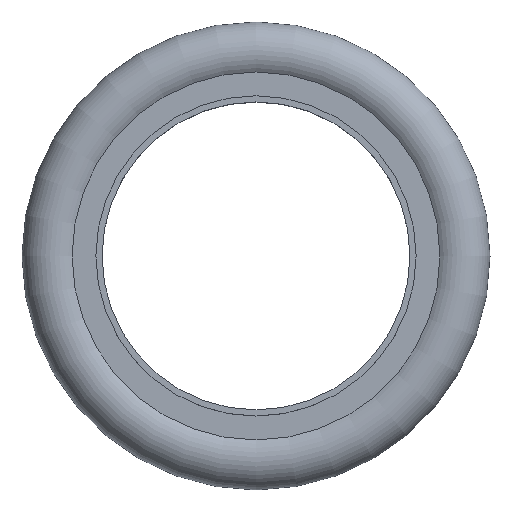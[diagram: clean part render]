
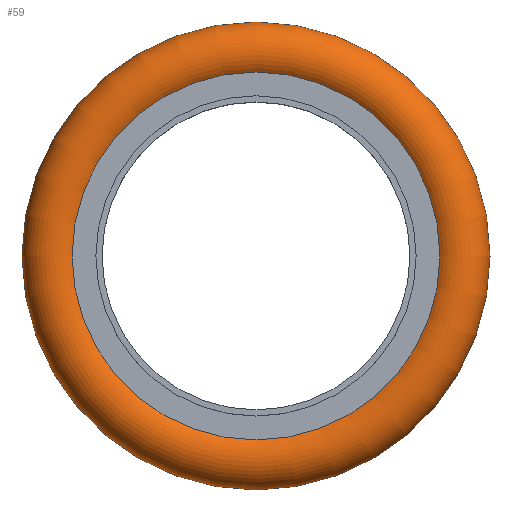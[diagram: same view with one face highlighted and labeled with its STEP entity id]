
A CAD part, top view. The second image highlights one B-rep face of the part: STEP entity #59.
In plain terms, the highlighted toroidal (fillet/blend) face has major radius 16.5 mm and minor radius 2.5 mm.
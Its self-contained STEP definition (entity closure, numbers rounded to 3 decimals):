
#59 = ADVANCED_FACE( '', ( #110, #111 ), #112, .T. );
#110 = FACE_OUTER_BOUND( '', #156, .T. );
#111 = FACE_OUTER_BOUND( '', #157, .T. );
#112 = TOROIDAL_SURFACE( '', #158, 16.5, 2.5 );
#156 = EDGE_LOOP( '', ( #194 ) );
#157 = EDGE_LOOP( '', ( #195 ) );
#158 = AXIS2_PLACEMENT_3D( '', #196, #197, #198 );
#194 = ORIENTED_EDGE( '', *, *, #237, .F. );
#195 = ORIENTED_EDGE( '', *, *, #231, .T. );
#196 = CARTESIAN_POINT( '', ( 0., 0., 0. ) );
#197 = DIRECTION( '', ( 0., 0., -1. ) );
#198 = DIRECTION( '', ( -1., 0., 0. ) );
#231 = EDGE_CURVE( '', #247, #247, #248, .T. );
#237 = EDGE_CURVE( '', #257, #257, #258, .T. );
#247 = VERTEX_POINT( '', #271 );
#248 = CIRCLE( '', #272, 14.936 );
#257 = VERTEX_POINT( '', #281 );
#258 = CIRCLE( '', #282, 14.936 );
#271 = CARTESIAN_POINT( '', ( -14.936, 0., 1.95 ) );
#272 = AXIS2_PLACEMENT_3D( '', #294, #295, #296 );
#281 = CARTESIAN_POINT( '', ( -14.936, 0., -1.95 ) );
#282 = AXIS2_PLACEMENT_3D( '', #306, #307, #308 );
#294 = CARTESIAN_POINT( '', ( 0., 0., 1.95 ) );
#295 = DIRECTION( '', ( 0., 0., -1. ) );
#296 = DIRECTION( '', ( -1., 0., 0. ) );
#306 = CARTESIAN_POINT( '', ( 0., 0., -1.95 ) );
#307 = DIRECTION( '', ( 0., 0., -1. ) );
#308 = DIRECTION( '', ( -1., 0., 0. ) );
